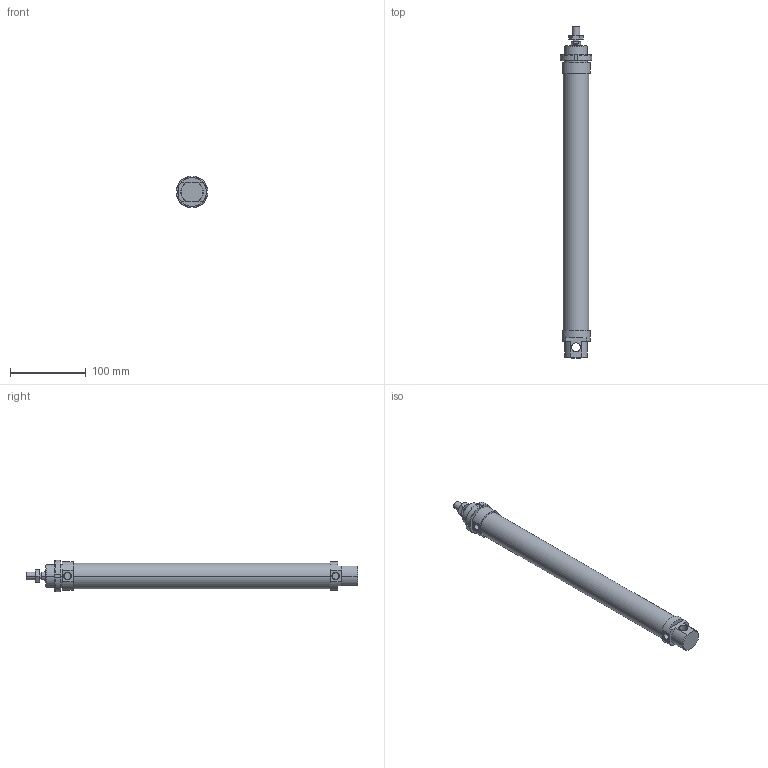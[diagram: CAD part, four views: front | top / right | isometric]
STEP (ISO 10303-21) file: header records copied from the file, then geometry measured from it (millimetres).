
FILE_DESCRIPTION((''),'2;1');
FILE_NAME('I:\DOC-EDP\Lib-3d\1200\CILINDRI\1280\1280_32_0300.stp','2003-04-07T19:05:05',('maffial1'),(''),'Autodesk Inventor (R) 6.0','Autodesk Inventor (R) 6.0','');
FILE_SCHEMA(('AUTOMOTIVE_DESIGN { 1 0 10303 214 1 1 1 1 }'));
Length unit declared in the file: millimetre
Products named in the file (5): 1280_32_0300; S1280_32_300; 1200_32_05; 1200_32_06; C1280_32_300
Assembly tree (4 placements, depth 2):
  1280_32_0300
    S1280_32_300
    1200_32_05
    1200_32_06
    C1280_32_300
Bounding box: 41.7 x 439 x 41.7 mm (x, y, z)
Volume: 367697.7 mm3; surface area: 77783.6 mm2
Topology: 4 solids, 4 shells, 122 faces, 286 edges, 180 vertices
Faces by surface type: plane 44, cone 32, cylinder 26, bspline 20
Entity records: 3831 total; most frequent: CARTESIAN_POINT 997, DIRECTION 582, ORIENTED_EDGE 572, EDGE_CURVE 286, AXIS2_PLACEMENT_3D 229, VERTEX_POINT 180, EDGE_LOOP 136, VECTOR 124
